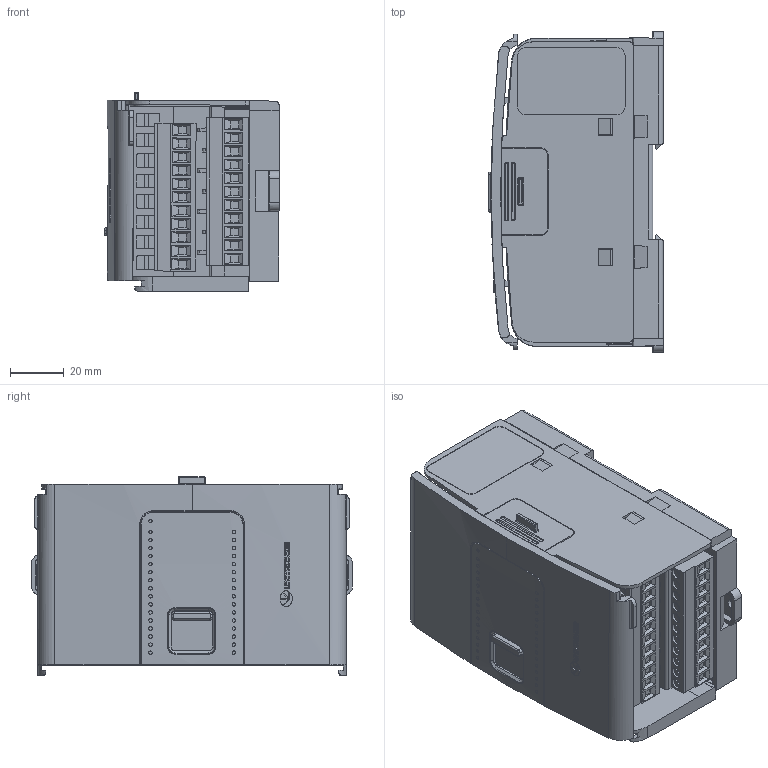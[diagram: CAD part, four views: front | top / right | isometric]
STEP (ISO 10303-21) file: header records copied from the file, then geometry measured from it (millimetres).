
FILE_DESCRIPTION (( 'STEP AP214' ), '1' );
FILE_NAME ('Uni-IO (wide).STEP', '2014-10-20T11:16:26', ( 'dell' ), ( '' ), 'SwSTEP 2.0', 'SolidWorks 2011', '' );
FILE_SCHEMA (( 'AUTOMOTIVE_DESIGN' ));
Length unit declared in the file: millimetre
Products named in the file (1): Uni-IO (wide)
Bounding box: 65.04 x 119.46 x 74.1 mm (x, y, z)
Volume: 437057.3 mm3; surface area: 129080.1 mm2
Topology: 4 solids, 7 shells, 3576 faces, 9640 edges, 6262 vertices
Faces by surface type: plane 2381, cylinder 573, bspline 380, cone 224, sphere 10, torus 8
Entity records: 121482 total; most frequent: CARTESIAN_POINT 35608, ORIENTED_EDGE 19280, DIRECTION 15517, EDGE_CURVE 9640, VECTOR 6935, LINE 6935, VERTEX_POINT 6262, AXIS2_PLACEMENT_3D 4291
